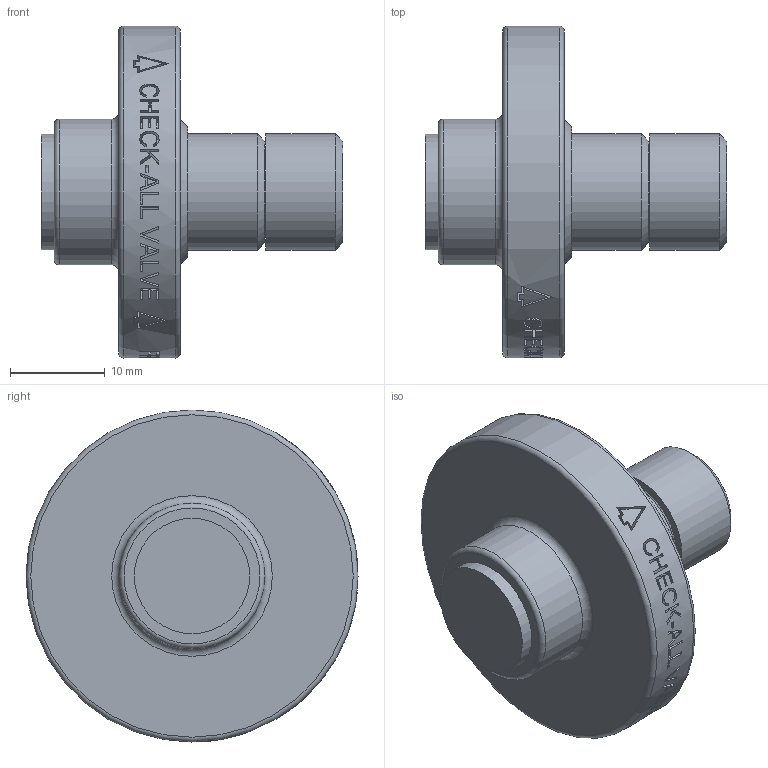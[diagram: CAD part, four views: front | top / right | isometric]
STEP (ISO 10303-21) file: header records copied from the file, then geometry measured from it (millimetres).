
FILE_DESCRIPTION( ( 'Unknown' ), '1' );
FILE_NAME( 'Y:/ENGR/3D Solid Edge Models/FP/FP STEP/FPD.stp', 'Unknown', ( 'Unknown' ), ( 'Unknown' ), 'PSStep 14.0', 'Unknown', ' ' );
FILE_SCHEMA( ( 'AUTOMOTIVE_DESIGN { 1 0 10303 214 1 1 1 1 }' ) );
Length unit declared in the file: millimetre
Products named in the file (1): 1
Bounding box: 31.88 x 35.05 x 35.05 mm (x, y, z)
Volume: 9693.6 mm3; surface area: 3955.9 mm2
Topology: 1 solids, 1 shells, 208 faces, 519 edges, 344 vertices
Faces by surface type: plane 125, bspline 45, cylinder 31, torus 4, cone 3
Full cylindrical faces by diameter (mm): 8.839 x1, 12.192 x1, 12.319 x2, 15.367 x1, 35.052 x1
Entity records: 9362 total; most frequent: CARTESIAN_POINT 3838, ORIENTED_EDGE 1012, EDGE_CURVE 506, B_SPLINE_CURVE_WITH_KNOTS 486, DIRECTION 368, VERTEX_POINT 344, EDGE_LOOP 252, FACE_OUTER_BOUND 218
